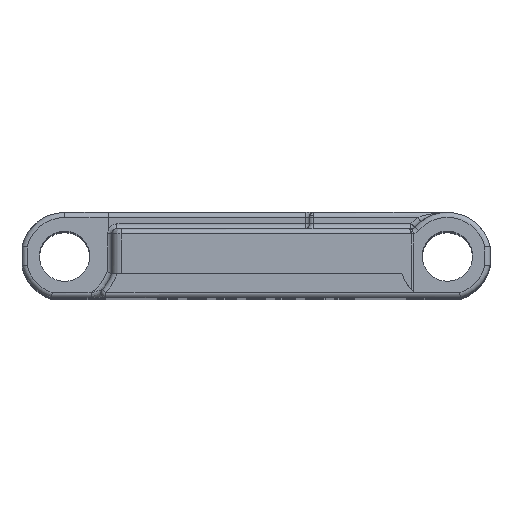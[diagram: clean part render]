
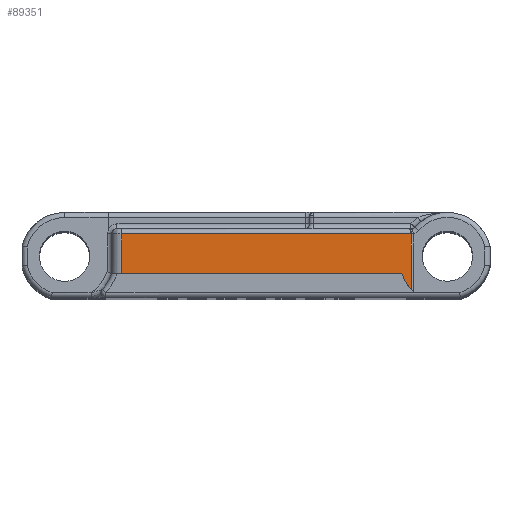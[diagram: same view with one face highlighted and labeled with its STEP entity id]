
A CAD part, top view. The second image highlights one B-rep face of the part: STEP entity #89351.
In plain terms, the highlighted planar face has unit normal (0, 0, 1).
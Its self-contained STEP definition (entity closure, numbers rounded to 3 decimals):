
#28470=DIRECTION('',(0.,1.,0.));
#28471=VECTOR('',#28470,5.538);
#28472=CARTESIAN_POINT('',(15.45,-3.325,50.75));
#28473=LINE('',#28472,#28471);
#28478=DIRECTION('',(0.,1.,0.));
#28479=VECTOR('',#28478,3.963);
#28480=CARTESIAN_POINT('',(-13.366,-1.75,50.75));
#28481=LINE('',#28480,#28479);
#28482=CARTESIAN_POINT('',(19.25,0.,50.75));
#28483=DIRECTION('',(0.,0.,1.));
#28484=DIRECTION('',(-0.938,-0.347,0.));
#28485=AXIS2_PLACEMENT_3D('',#28482,#28483,#28484);
#28496=DIRECTION('',(1.,0.,0.));
#28497=VECTOR('',#28496,27.88);
#28498=CARTESIAN_POINT('',(-13.366,-1.75,50.75));
#28499=LINE('',#28498,#28497);
#29065=CARTESIAN_POINT('',(15.417,3.213,50.75));
#29066=DIRECTION('',(0.,0.,-1.));
#29067=DIRECTION('',(0.033,-0.999,0.));
#29068=AXIS2_PLACEMENT_3D('',#29065,#29066,#29067);
#29070=DIRECTION('',(-1.,0.,0.));
#29071=VECTOR('',#29070,28.784);
#29072=CARTESIAN_POINT('',(15.417,2.213,50.75));
#29073=LINE('',#29072,#29071);
#43551=CARTESIAN_POINT('',(-13.366,-1.75,50.75));
#43552=CARTESIAN_POINT('',(-13.366,2.213,50.75));
#43553=VERTEX_POINT('',#43551);
#43554=VERTEX_POINT('',#43552);
#43653=CARTESIAN_POINT('',(15.417,2.213,50.75));
#43654=VERTEX_POINT('',#43653);
#49292=CARTESIAN_POINT('',(14.514,-1.75,50.75));
#49294=VERTEX_POINT('',#49292);
#49299=CARTESIAN_POINT('',(15.45,-3.325,50.75));
#49300=VERTEX_POINT('',#49299);
#49339=CARTESIAN_POINT('',(15.45,2.214,50.75));
#49340=VERTEX_POINT('',#49339);
#89333=CARTESIAN_POINT('',(-13.366,-1.75,50.75));
#89334=DIRECTION('',(0.,0.,1.));
#89335=DIRECTION('',(1.,0.,0.));
#89336=AXIS2_PLACEMENT_3D('',#89333,#89334,#89335);
#89337=PLANE('',#89336);
#89339=ORIENTED_EDGE('',*,*,#89338,.T.);
#89341=ORIENTED_EDGE('',*,*,#89340,.F.);
#89343=ORIENTED_EDGE('',*,*,#89342,.F.);
#89344=ORIENTED_EDGE('',*,*,#89323,.F.);
#89346=ORIENTED_EDGE('',*,*,#89345,.F.);
#89348=ORIENTED_EDGE('',*,*,#89347,.F.);
#89349=EDGE_LOOP('',(#89339,#89341,#89343,#89344,#89346,#89348));
#89350=FACE_OUTER_BOUND('',#89349,.F.);
#28486=CIRCLE('',#28485,5.049);
#29069=CIRCLE('',#29068,1.);
#89323=EDGE_CURVE('',#49300,#49340,#28473,.T.);
#89338=EDGE_CURVE('',#43553,#43554,#28481,.T.);
#89340=EDGE_CURVE('',#43654,#43554,#29073,.T.);
#89342=EDGE_CURVE('',#49340,#43654,#29069,.T.);
#89345=EDGE_CURVE('',#49294,#49300,#28486,.T.);
#89347=EDGE_CURVE('',#43553,#49294,#28499,.T.);
#89351=ADVANCED_FACE('',(#89350),#89337,.T.);
